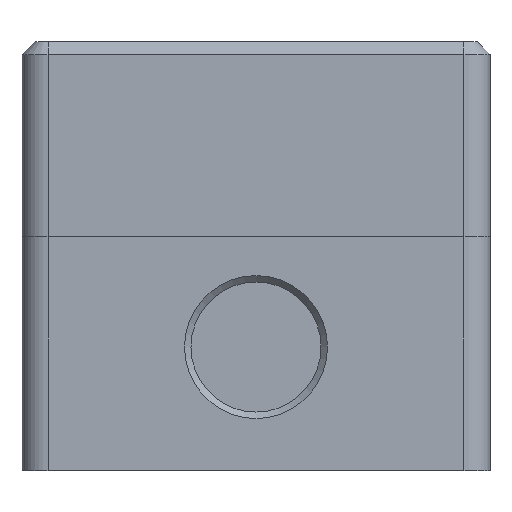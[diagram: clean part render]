
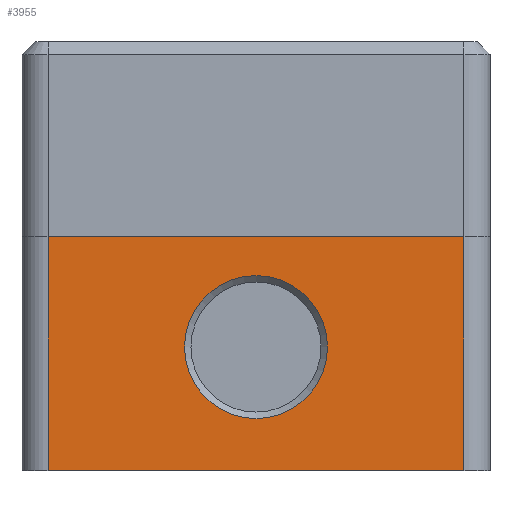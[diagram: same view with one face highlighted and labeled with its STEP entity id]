
A CAD part, left-side view. The second image highlights one B-rep face of the part: STEP entity #3955.
In plain terms, the highlighted planar face has unit normal (-1, 0, 0).
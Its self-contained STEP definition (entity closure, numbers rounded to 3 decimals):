
#873 = ORIENTED_EDGE ( 'NONE', *, *, #14973, .T. ) ;
#1038 = CARTESIAN_POINT ( 'NONE',  ( 0., 36., 19. ) ) ;
#1437 = PLANE ( 'NONE',  #6752 ) ;
#1686 = VECTOR ( 'NONE', #12647, 1000. ) ;
#1769 = LINE ( 'NONE', #12606, #13371 ) ;
#1961 = CARTESIAN_POINT ( 'NONE',  ( 0., 36., 8. ) ) ;
#2070 = EDGE_CURVE ( 'NONE', #6745, #8752, #8895, .T. ) ;
#2689 = EDGE_LOOP ( 'NONE', ( #3931, #11969, #3799, #873 ) ) ;
#3528 = DIRECTION ( 'NONE',  ( 0., 0., -1. ) ) ;
#3799 = ORIENTED_EDGE ( 'NONE', *, *, #2070, .F. ) ;
#3880 = DIRECTION ( 'NONE',  ( 1., 0., 0. ) ) ;
#3931 = ORIENTED_EDGE ( 'NONE', *, *, #15994, .T. ) ;
#3955 = ADVANCED_FACE ( 'NONE', ( #15159, #14553 ), #1437, .F. ) ;
#5826 = CARTESIAN_POINT ( 'NONE',  ( 0., 68., 36. ) ) ;
#5964 = EDGE_CURVE ( 'NONE', #14344, #14344, #15492, .T. ) ;
#6007 = DIRECTION ( 'NONE',  ( 0., -1., 0. ) ) ;
#6017 = DIRECTION ( 'NONE',  ( 1., 0., 0. ) ) ;
#6135 = VECTOR ( 'NONE', #3528, 1000. ) ;
#6374 = CARTESIAN_POINT ( 'NONE',  ( 0., 4., 36. ) ) ;
#6432 = AXIS2_PLACEMENT_3D ( 'NONE', #1038, #6017, #9605 ) ;
#6745 = VERTEX_POINT ( 'NONE', #5826 ) ;
#6752 = AXIS2_PLACEMENT_3D ( 'NONE', #6374, #3880, #15351 ) ;
#7151 = CARTESIAN_POINT ( 'NONE',  ( 0., 4., 0. ) ) ;
#7179 = VECTOR ( 'NONE', #6007, 1000. ) ;
#7698 = VERTEX_POINT ( 'NONE', #7151 ) ;
#8034 = EDGE_LOOP ( 'NONE', ( #15792 ) ) ;
#8265 = LINE ( 'NONE', #15292, #1686 ) ;
#8752 = VERTEX_POINT ( 'NONE', #12603 ) ;
#8808 = EDGE_CURVE ( 'NONE', #8752, #7698, #9396, .T. ) ;
#8895 = LINE ( 'NONE', #14598, #7179 ) ;
#9396 = LINE ( 'NONE', #15707, #6135 ) ;
#9605 = DIRECTION ( 'NONE',  ( 0., 0., -1. ) ) ;
#11969 = ORIENTED_EDGE ( 'NONE', *, *, #8808, .F. ) ;
#12603 = CARTESIAN_POINT ( 'NONE',  ( 0., 4., 36. ) ) ;
#12606 = CARTESIAN_POINT ( 'NONE',  ( 0., 4., 0. ) ) ;
#12647 = DIRECTION ( 'NONE',  ( 0., 0., -1. ) ) ;
#12651 = VERTEX_POINT ( 'NONE', #14471 ) ;
#13371 = VECTOR ( 'NONE', #14053, 1000. ) ;
#14053 = DIRECTION ( 'NONE',  ( 0., -1., 0. ) ) ;
#14344 = VERTEX_POINT ( 'NONE', #1961 ) ;
#14471 = CARTESIAN_POINT ( 'NONE',  ( 0., 68., 0. ) ) ;
#14553 = FACE_OUTER_BOUND ( 'NONE', #2689, .T. ) ;
#14598 = CARTESIAN_POINT ( 'NONE',  ( 0., 4., 36. ) ) ;
#14973 = EDGE_CURVE ( 'NONE', #6745, #12651, #8265, .T. ) ;
#15159 = FACE_BOUND ( 'NONE', #8034, .T. ) ;
#15292 = CARTESIAN_POINT ( 'NONE',  ( 0., 68., 36. ) ) ;
#15351 = DIRECTION ( 'NONE',  ( 0., 0., -1. ) ) ;
#15492 = CIRCLE ( 'NONE', #6432, 11. ) ;
#15707 = CARTESIAN_POINT ( 'NONE',  ( 0., 4., 36. ) ) ;
#15792 = ORIENTED_EDGE ( 'NONE', *, *, #5964, .T. ) ;
#15994 = EDGE_CURVE ( 'NONE', #12651, #7698, #1769, .T. ) ;
